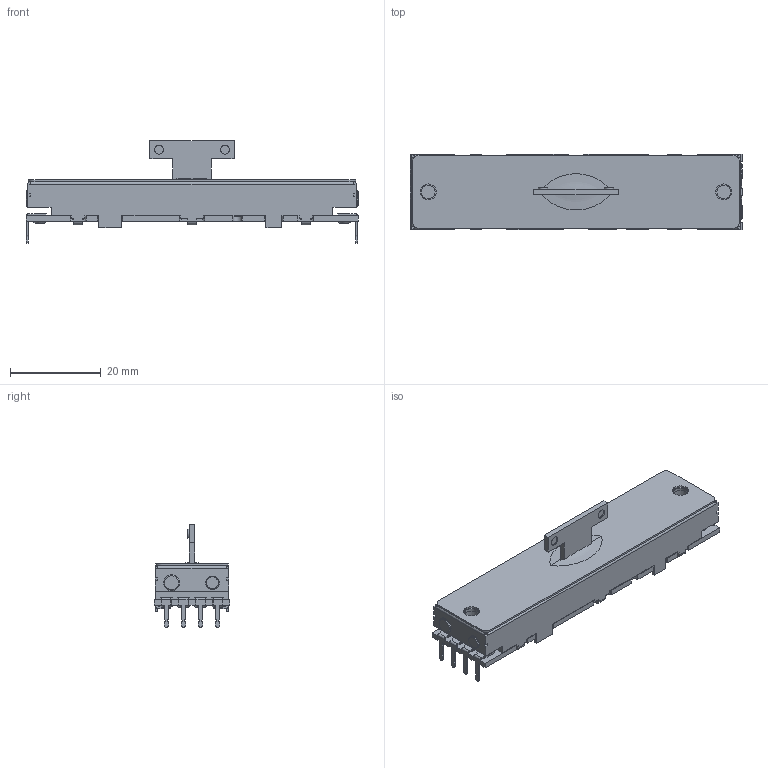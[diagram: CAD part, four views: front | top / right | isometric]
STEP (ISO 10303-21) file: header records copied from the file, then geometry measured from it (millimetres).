
FILE_DESCRIPTION(('FreeCAD Model'),'2;1');
FILE_NAME('Open CASCADE Shape Model','2025-07-06T19:15:50',(''),(''), 'Open CASCADE STEP processor 7.8','FreeCAD','Unknown');
FILE_SCHEMA(('AUTOMOTIVE_DESIGN { 1 0 10303 214 1 1 1 1 }'));
Length unit declared in the file: millimetre
Products named in the file (1): 2LSVA-450XD
Bounding box: 73 x 16.5 x 22.6 mm (x, y, z)
Volume: 10347.6 mm3; surface area: 5702.8 mm2
Topology: 1 solids, 7 shells, 560 faces, 1527 edges, 997 vertices
Faces by surface type: plane 372, cylinder 163, cone 10, extrusion 6, torus 6, revolution 3
Full cylindrical faces by diameter (mm): 0.5 x6, 1.5 x6, 1.7 x8, 2 x4, 3 x4, 3.5 x4, 4 x2
Entity records: 22507 total; most frequent: CARTESIAN_POINT 3916, ORIENTED_EDGE 3062, DIRECTION 2983, EDGE_CURVE 1527, VECTOR 1120, LINE 1114, VERTEX_POINT 994, AXIS2_PLACEMENT_3D 930
